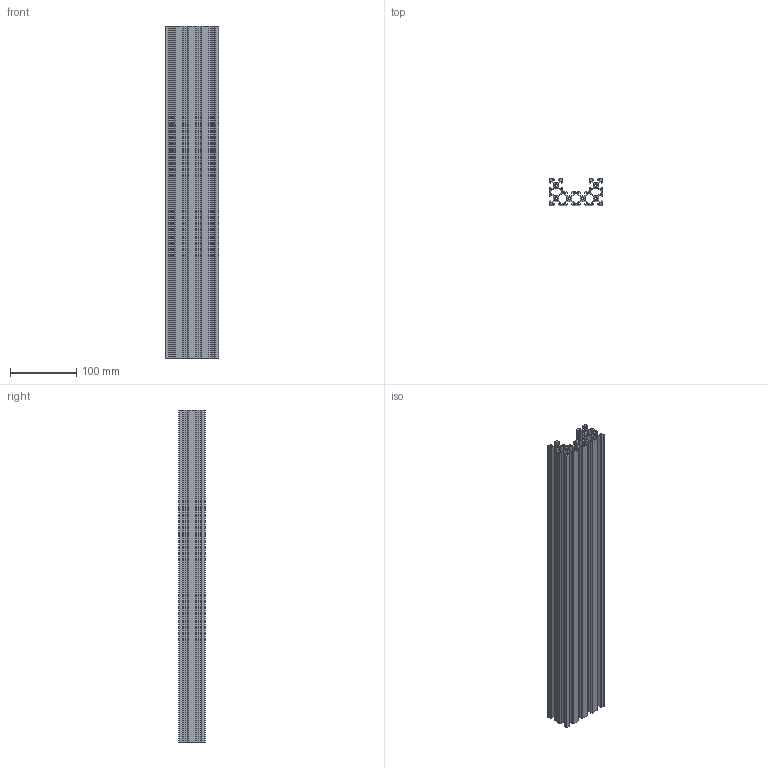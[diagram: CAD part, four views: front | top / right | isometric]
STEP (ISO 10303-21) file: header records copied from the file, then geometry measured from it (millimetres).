
FILE_DESCRIPTION (( 'STEP AP214' ), '1' );
FILE_NAME ('T-V-Slot–C-Beam.step', '2024-07-09T09:57:04', ( '' ), ( '' ), 'SwSTEP 2.0', 'SolidWorks 2024', '' );
FILE_SCHEMA (( 'AUTOMOTIVE_DESIGN' ));
Length unit declared in the file: millimetre
Products named in the file (1): T-V-Slot–C-Beam
Bounding box: 80 x 40 x 500 mm (x, y, z)
Volume: 410805.8 mm3; surface area: 421097.9 mm2
Topology: 1 solids, 1 shells, 368 faces, 1168 edges, 802 vertices
Faces by surface type: plane 283, cylinder 85
Entity records: 12969 total; most frequent: CARTESIAN_POINT 2339, ORIENTED_EDGE 2336, DIRECTION 2076, EDGE_CURVE 1168, LINE 998, VECTOR 998, VERTEX_POINT 802, AXIS2_PLACEMENT_3D 539
